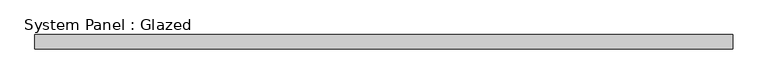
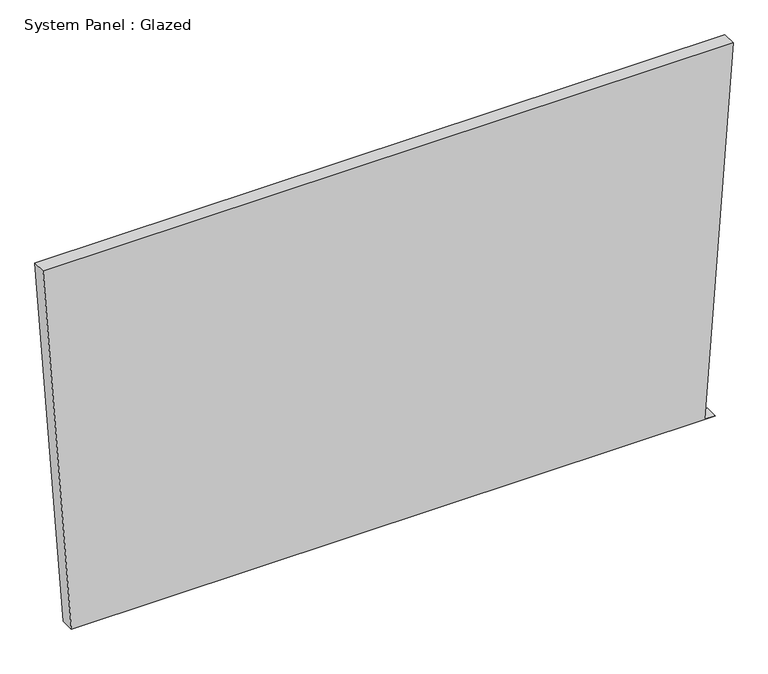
"""IFC4 building model written with IfcOpenShell, lengths in millimetres: plate geometry, System Panel : Glazed."""

from ifc_helpers import new_model, si_unit, frame, origin, place, context, project, spatial, polyline, outline, extrude, source, transform, mapped, element, save


def system_panel_glazed_29ad7663(model_context):
    return source(origin(), model_context, "Body", "SweptSolid", [
        extrude(outline(polyline([(0.0, -573.7851009), (0.0049693, 592.8852541), (1.38493, 573.8853012), (703.9548968, 624.9127411), (703.9495733, -624.9127411), (0.0, -573.7851009)])), frame((0.0, 19.05, 0.0), z_axis=(0.0, 1.0, 0.0), x_axis=(0.0, 0.0, 1.0)), (0.0, 0.0, 1.0), 25.4),
    ])


if __name__ == "__main__":
    model = new_model("IFC4")
    model_context = context("Model", 3, world=origin())
    ifc_project = project(units=[si_unit("LENGTHUNIT", "METRE", prefix="MILLI")], contexts=[model_context])
    site = spatial("IfcSite", under=ifc_project)
    building = spatial("IfcBuilding", under=site)
    placement = place(None, origin())
    system_panel_glazed_shape = system_panel_glazed_29ad7663(model_context)
    element("IfcPlate", 1, ObjectType="System Panel : Glazed", at=placement, inside=building, context=model_context, shape_type="MappedRepresentation", body=[
        mapped(system_panel_glazed_shape, transform((0.0, 0.0, 0.0), x_axis=(1.0, 0.0, 0.0), y_axis=(0.0, 1.0, 0.0), z_axis=(0.0, 0.0, 1.0))),
    ])
    save(model, "model.ifc")
